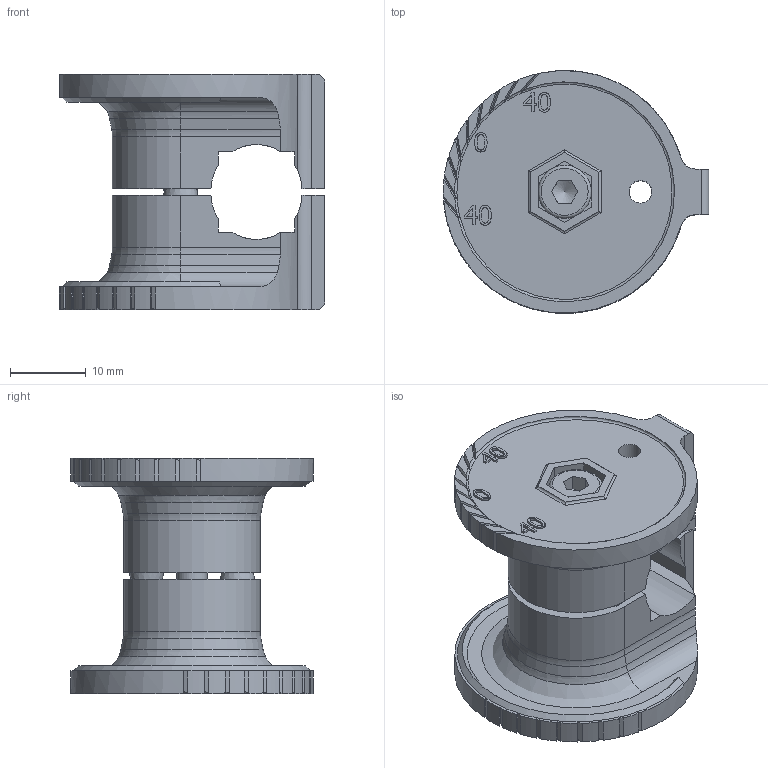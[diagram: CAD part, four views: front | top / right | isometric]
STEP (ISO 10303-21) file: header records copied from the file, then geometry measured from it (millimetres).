
FILE_DESCRIPTION(/* description */ (''),/* implementation_level */ '2;1');
FILE_NAME(/* name */ 'C:\#Vault-WorkDir\Konstruktions-Dokumente\Projekte\F55\Zubehör\153-01287_MBD F55 ST2.stp',/* time_stamp */ '2016-12-13T10:19:55+01:00',/* author */ ('Sandra.Stahl'),/* organization */ (''),/* preprocessor_version */ 'ST-DEVELOPER v16.1',/* originating_system */ 'Autodesk Inventor 2016',/* authorisation */ '');
FILE_SCHEMA (('AUTOMOTIVE_DESIGN { 1 0 10303 214 3 1 1 }'));
Length unit declared in the file: millimetre
Products named in the file (1): test
Bounding box: 35 x 32 x 31 mm (x, y, z)
Volume: 12872.7 mm3; surface area: 7138 mm2
Topology: 4 solids, 4 shells, 412 faces, 1010 edges, 637 vertices
Faces by surface type: plane 237, bspline 70, cylinder 65, torus 24, cone 16
Full cylindrical faces by diameter (mm): 3 x2, 3.242 x1, 4 x1, 4.3 x2, 7 x1
Entity records: 13184 total; most frequent: CARTESIAN_POINT 3665, ORIENTED_EDGE 1970, DIRECTION 1620, EDGE_CURVE 985, VERTEX_POINT 631, LINE 596, VECTOR 596, AXIS2_PLACEMENT_3D 512
